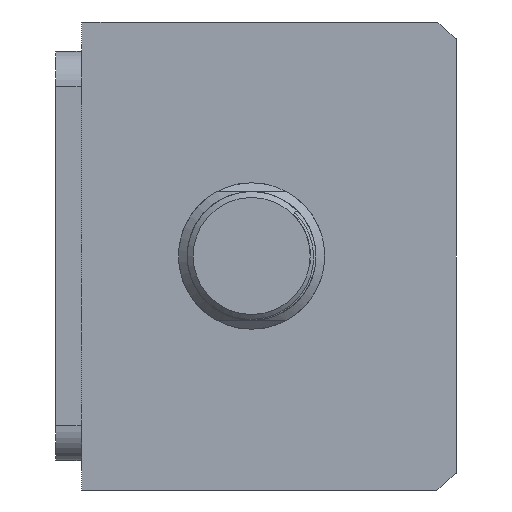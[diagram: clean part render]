
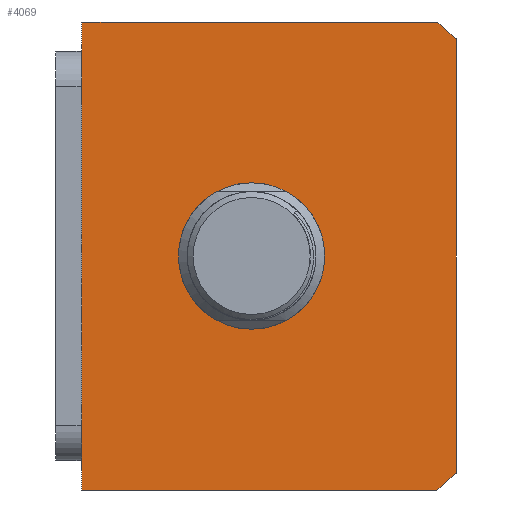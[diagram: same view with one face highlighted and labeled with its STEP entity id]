
A CAD part, front view. The second image highlights one B-rep face of the part: STEP entity #4069.
In plain terms, the highlighted planar face has unit normal (0, -1, 0).
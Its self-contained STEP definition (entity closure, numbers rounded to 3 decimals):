
#1076=FACE_BOUND('',#5109,.T.);
#1077=FACE_BOUND('',#5110,.T.);
#3696=PLANE('',#13714);
#4069=ADVANCED_FACE('',(#1076,#1077),#3696,.F.);
#5109=EDGE_LOOP('',(#7988));
#5110=EDGE_LOOP('',(#7989,#7990,#7991,#7992,#7993,#7994));
#5717=LINE('',#16408,#6754);
#5729=LINE('',#16597,#6766);
#5745=LINE('',#16630,#6782);
#5761=LINE('',#16673,#6798);
#6754=VECTOR('',#14224,1.);
#6766=VECTOR('',#14302,1.);
#6782=VECTOR('',#14320,1.);
#6798=VECTOR('',#14354,1.);
#7988=ORIENTED_EDGE('',*,*,#12062,.T.);
#7989=ORIENTED_EDGE('',*,*,#12125,.F.);
#7990=ORIENTED_EDGE('',*,*,#12052,.F.);
#7991=ORIENTED_EDGE('',*,*,#12126,.F.);
#7992=ORIENTED_EDGE('',*,*,#12087,.F.);
#7993=ORIENTED_EDGE('',*,*,#12127,.F.);
#7994=ORIENTED_EDGE('',*,*,#12103,.F.);
#10955=VERTEX_POINT('',#16407);
#10956=VERTEX_POINT('',#16409);
#10965=VERTEX_POINT('',#16429);
#10988=VERTEX_POINT('',#16595);
#10990=VERTEX_POINT('',#16598);
#11004=VERTEX_POINT('',#16628);
#11006=VERTEX_POINT('',#16631);
#12052=EDGE_CURVE('',#10955,#10956,#5717,.T.);
#12062=EDGE_CURVE('',#10965,#10965,#13565,.T.);
#12087=EDGE_CURVE('',#10988,#10990,#5729,.T.);
#12103=EDGE_CURVE('',#11004,#11006,#5745,.T.);
#12125=EDGE_CURVE('',#10956,#11004,#13591,.T.);
#12126=EDGE_CURVE('',#10990,#10955,#5761,.T.);
#12127=EDGE_CURVE('',#11006,#10988,#13592,.T.);
#13565=CIRCLE('',#13672,12.5);
#13591=CIRCLE('',#13712,51.);
#13592=CIRCLE('',#13713,51.);
#13672=AXIS2_PLACEMENT_3D('',#16428,#14237,#14238);
#13712=AXIS2_PLACEMENT_3D('',#16672,#14352,#14353);
#13713=AXIS2_PLACEMENT_3D('',#16674,#14355,#14356);
#13714=AXIS2_PLACEMENT_3D('',#16675,#14357,#14358);
#14224=DIRECTION('',(1.,0.,0.));
#14237=DIRECTION('',(0.,1.,0.));
#14238=DIRECTION('',(0.,0.,-1.));
#14302=DIRECTION('',(-1.,0.,0.));
#14320=DIRECTION('',(0.,0.,-1.));
#14352=DIRECTION('',(0.,1.,0.));
#14353=DIRECTION('',(0.,0.,-1.));
#14354=DIRECTION('',(0.,0.,1.));
#14355=DIRECTION('',(0.,1.,0.));
#14356=DIRECTION('',(0.,0.,-1.));
#14357=DIRECTION('',(0.,1.,0.));
#14358=DIRECTION('',(0.,0.,1.));
#16407=CARTESIAN_POINT('',(-101.192,-19.084,40.));
#16408=CARTESIAN_POINT('',(-101.192,-19.084,40.));
#16409=CARTESIAN_POINT('',(-40.553,-19.084,40.));
#16428=CARTESIAN_POINT('',(-72.192,-19.084,0.));
#16429=CARTESIAN_POINT('',(-72.192,-19.084,-12.5));
#16595=CARTESIAN_POINT('',(-40.553,-19.084,-40.));
#16597=CARTESIAN_POINT('',(-101.192,-19.084,-40.));
#16598=CARTESIAN_POINT('',(-101.192,-19.084,-40.));
#16628=CARTESIAN_POINT('',(-37.192,-19.084,37.094));
#16630=CARTESIAN_POINT('',(-37.192,-19.084,40.));
#16631=CARTESIAN_POINT('',(-37.192,-19.084,-37.094));
#16672=CARTESIAN_POINT('',(-72.192,-19.084,0.));
#16673=CARTESIAN_POINT('',(-101.192,-19.084,40.));
#16674=CARTESIAN_POINT('',(-72.192,-19.084,0.));
#16675=CARTESIAN_POINT('',(-112.699,-19.084,0.));
